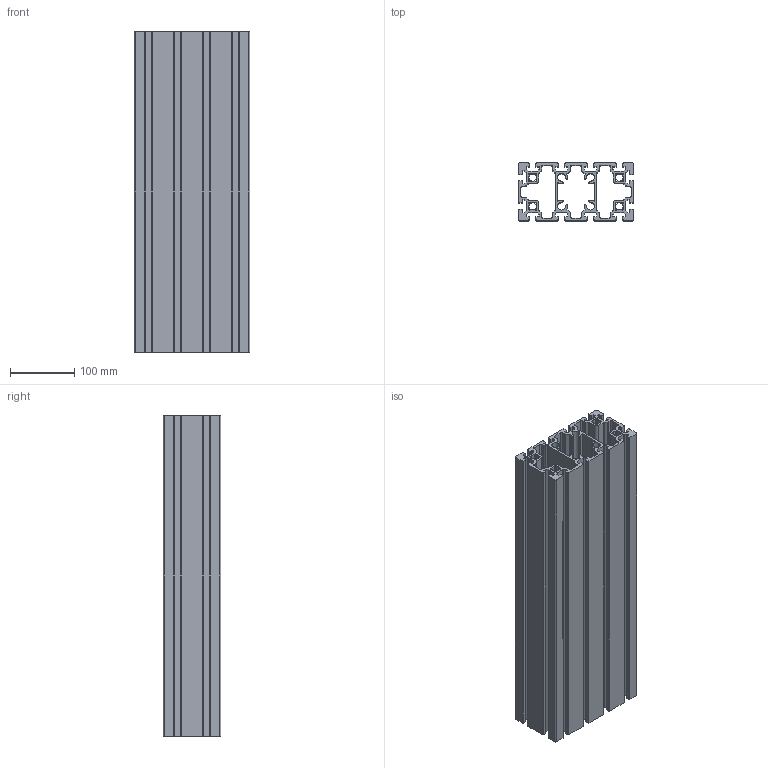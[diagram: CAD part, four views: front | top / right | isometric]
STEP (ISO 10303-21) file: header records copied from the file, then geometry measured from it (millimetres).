
FILE_DESCRIPTION(/* description */ ('Profilo PG90180K-02-02-500'),/* implementation_level */ '2;1');
FILE_NAME(/* name */ 'C:\Users\davide.cavedon\Desktop\PG90180K-02-02-500.stp',/* time_stamp */ '2023-02-15T08:32:03+01:00',/* author */ ('davide.cavedon'),/* organization */ (''),/* preprocessor_version */ 'ST-DEVELOPER v18.1',/* originating_system */ 'Autodesk Inventor 2021',/* authorisation */ '');
FILE_SCHEMA (('AUTOMOTIVE_DESIGN { 1 0 10303 214 3 1 1 }'));
Length unit declared in the file: millimetre
Products named in the file (1): PG90180K-02-02-500
Bounding box: 180 x 90 x 500 mm (x, y, z)
Volume: 2346394.5 mm3; surface area: 1054840.6 mm2
Topology: 1 solids, 1 shells, 562 faces, 1680 edges, 1120 vertices
Faces by surface type: plane 306, cylinder 256
Entity records: 19085 total; most frequent: CARTESIAN_POINT 3363, ORIENTED_EDGE 3360, DIRECTION 3318, EDGE_CURVE 1680, LINE 1168, VECTOR 1168, VERTEX_POINT 1120, AXIS2_PLACEMENT_3D 1075
